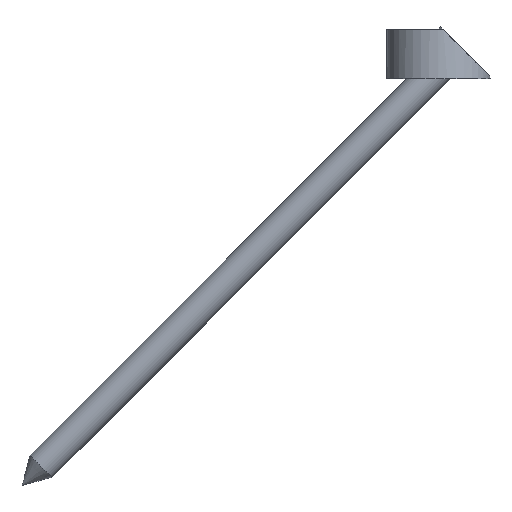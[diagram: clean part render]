
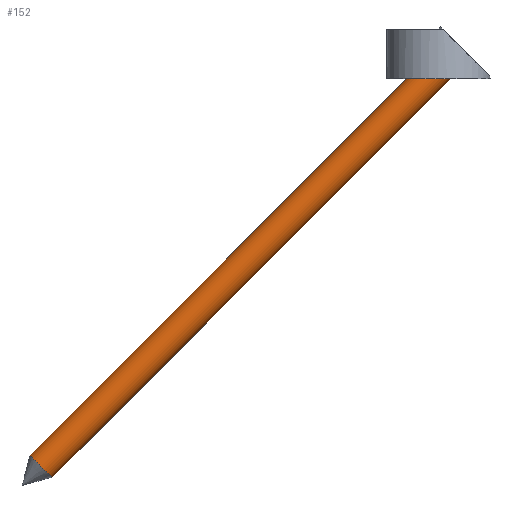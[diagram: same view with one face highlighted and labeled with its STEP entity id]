
A CAD part, left-side view. The second image highlights one B-rep face of the part: STEP entity #152.
In plain terms, the highlighted cylindrical face has radius 3 mm (diameter 6 mm), a full revolution.
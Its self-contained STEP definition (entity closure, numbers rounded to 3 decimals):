
#36=CYLINDRICAL_SURFACE('',#198,3.);
#44=CIRCLE('',#197,3.);
#45=CIRCLE('',#199,3.);
#68=ORIENTED_EDGE('',*,*,#85,.F.);
#69=ORIENTED_EDGE('',*,*,#84,.T.);
#84=EDGE_CURVE('',#95,#95,#44,.T.);
#85=EDGE_CURVE('',#97,#97,#45,.T.);
#95=VERTEX_POINT('',#288);
#97=VERTEX_POINT('',#292);
#115=EDGE_LOOP('',(#68));
#116=EDGE_LOOP('',(#69));
#134=FACE_BOUND('',#115,.T.);
#135=FACE_BOUND('',#116,.T.);
#152=ADVANCED_FACE('',(#134,#135),#36,.T.);
#197=AXIS2_PLACEMENT_3D('',#287,#238,#239);
#198=AXIS2_PLACEMENT_3D('',#290,#240,#241);
#199=AXIS2_PLACEMENT_3D('',#291,#242,#243);
#238=DIRECTION('',(0.,0.,1.));
#239=DIRECTION('',(0.,-1.,0.));
#240=DIRECTION('',(0.,0.,1.));
#241=DIRECTION('',(0.,-1.,0.));
#242=DIRECTION('',(0.,0.,1.));
#243=DIRECTION('',(0.,-1.,0.));
#287=CARTESIAN_POINT('',(0.,0.,-114.804));
#288=CARTESIAN_POINT('',(0.,-3.,-114.804));
#290=CARTESIAN_POINT('',(0.,0.,0.));
#291=CARTESIAN_POINT('',(0.,0.,-3.5));
#292=CARTESIAN_POINT('',(0.,-3.,-3.5));
